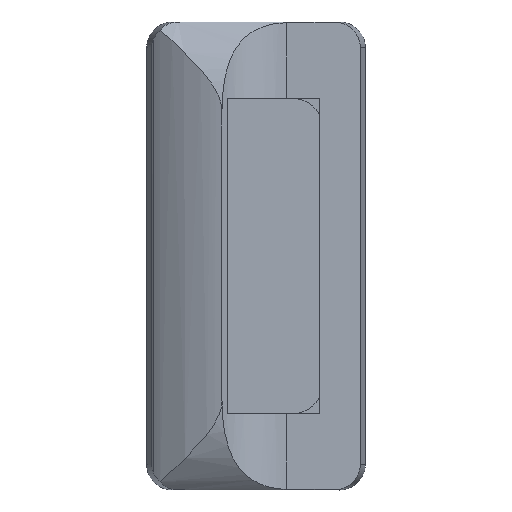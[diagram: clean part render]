
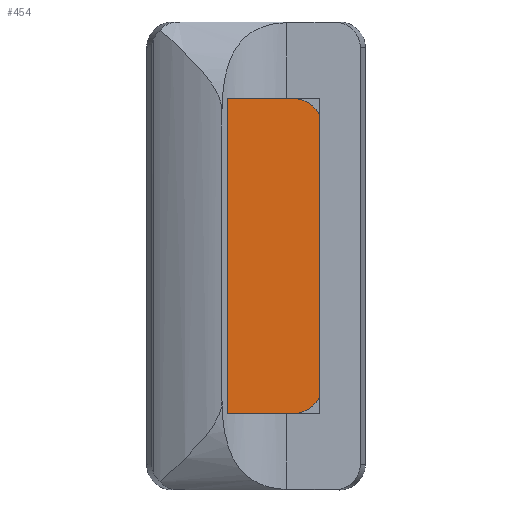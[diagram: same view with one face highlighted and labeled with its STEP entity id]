
A CAD part, top view. The second image highlights one B-rep face of the part: STEP entity #454.
In plain terms, the highlighted planar face has unit normal (0, 0, 1).
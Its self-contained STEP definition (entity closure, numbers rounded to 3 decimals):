
#112=CARTESIAN_POINT('',(20.279,68.887,-8.0));
#113=VERTEX_POINT('',#112);
#114=CARTESIAN_POINT('',(14.579,63.045,-8.0));
#115=VERTEX_POINT('',#114);
#116=CARTESIAN_POINT('',(20.577,62.894,-8.0));
#117=DIRECTION('',(0.0,0.0,1.));
#118=DIRECTION('',(-0.05,0.999,0.0));
#119=AXIS2_PLACEMENT_3D('',#116,#117,#118);
#120=CIRCLE('',#119,6.);
#121=EDGE_CURVE('',#113,#115,#120,.T.);
#154=CARTESIAN_POINT('',(14.264,37.907,-8.0));
#155=VERTEX_POINT('',#154);
#156=CARTESIAN_POINT('',(1017.064,37.907,-8.0));
#157=DIRECTION('',(0.0,0.0,1.));
#158=DIRECTION('',(-1.,0.025,0.0));
#159=AXIS2_PLACEMENT_3D('',#156,#157,#158);
#160=CIRCLE('',#159,1002.8);
#161=EDGE_CURVE('',#115,#155,#160,.T.);
#187=CARTESIAN_POINT('',(14.579,12.769,-8.0));
#188=VERTEX_POINT('',#187);
#189=CARTESIAN_POINT('',(1017.064,37.907,-8.0));
#190=DIRECTION('',(0.0,0.0,1.0));
#191=DIRECTION('',(-1.0,0.,0.0));
#192=AXIS2_PLACEMENT_3D('',#189,#190,#191);
#193=CIRCLE('',#192,1002.8);
#194=EDGE_CURVE('',#155,#188,#193,.T.);
#220=CARTESIAN_POINT('',(20.279,6.927,-8.0));
#221=VERTEX_POINT('',#220);
#222=CARTESIAN_POINT('',(20.577,12.919,-8.0));
#223=DIRECTION('',(0.0,0.0,1.));
#224=DIRECTION('',(-1.,-0.025,0.0));
#225=AXIS2_PLACEMENT_3D('',#222,#223,#224);
#226=CIRCLE('',#225,6.);
#227=EDGE_CURVE('',#188,#221,#226,.T.);
#253=CARTESIAN_POINT('',(35.241,6.927,-8.0));
#254=VERTEX_POINT('',#253);
#255=CARTESIAN_POINT('',(27.76,157.141,-8.0));
#256=DIRECTION('',(0.0,0.0,1.0));
#257=DIRECTION('',(0.,-1.0,0.0));
#258=AXIS2_PLACEMENT_3D('',#255,#256,#257);
#259=CIRCLE('',#258,150.4);
#260=EDGE_CURVE('',#221,#254,#259,.T.);
#286=CARTESIAN_POINT('',(40.941,12.769,-8.0));
#287=VERTEX_POINT('',#286);
#288=CARTESIAN_POINT('',(34.942,12.919,-8.0));
#289=DIRECTION('',(0.0,0.0,1.0));
#290=DIRECTION('',(0.05,-0.999,0.0));
#291=AXIS2_PLACEMENT_3D('',#288,#289,#290);
#292=CIRCLE('',#291,6.);
#293=EDGE_CURVE('',#254,#287,#292,.T.);
#319=CARTESIAN_POINT('',(41.256,37.907,-8.0));
#320=VERTEX_POINT('',#319);
#321=CARTESIAN_POINT('',(-961.544,37.907,-8.0));
#322=DIRECTION('',(0.0,0.0,1.));
#323=DIRECTION('',(1.,-0.025,0.0));
#324=AXIS2_PLACEMENT_3D('',#321,#322,#323);
#325=CIRCLE('',#324,1002.8);
#326=EDGE_CURVE('',#287,#320,#325,.T.);
#352=CARTESIAN_POINT('',(40.941,63.045,-8.0));
#353=VERTEX_POINT('',#352);
#354=CARTESIAN_POINT('',(-961.544,37.907,-8.0));
#355=DIRECTION('',(0.0,0.0,1.0));
#356=DIRECTION('',(1.0,0.,0.0));
#357=AXIS2_PLACEMENT_3D('',#354,#355,#356);
#358=CIRCLE('',#357,1002.8);
#359=EDGE_CURVE('',#320,#353,#358,.T.);
#385=CARTESIAN_POINT('',(35.241,68.887,-8.0));
#386=VERTEX_POINT('',#385);
#387=CARTESIAN_POINT('',(34.942,62.894,-8.0));
#388=DIRECTION('',(0.0,0.0,1.0));
#389=DIRECTION('',(1.,0.025,0.0));
#390=AXIS2_PLACEMENT_3D('',#387,#388,#389);
#391=CIRCLE('',#390,6.);
#392=EDGE_CURVE('',#353,#386,#391,.T.);
#418=CARTESIAN_POINT('',(27.76,-81.327,-8.0));
#419=DIRECTION('',(0.0,0.0,1.0));
#420=DIRECTION('',(0.,1.0,0.0));
#421=AXIS2_PLACEMENT_3D('',#418,#419,#420);
#422=CIRCLE('',#421,150.4);
#423=EDGE_CURVE('',#386,#113,#422,.T.);
#437=CARTESIAN_POINT('',(27.76,37.907,-8.0));
#438=DIRECTION('',(0.0,0.0,1.0));
#439=DIRECTION('',(1.0,0.0,0.0));
#440=AXIS2_PLACEMENT_3D('',#437,#438,#439);
#441=PLANE('',#440);
#442=ORIENTED_EDGE('',*,*,#121,.T.);
#443=ORIENTED_EDGE('',*,*,#161,.T.);
#444=ORIENTED_EDGE('',*,*,#194,.T.);
#445=ORIENTED_EDGE('',*,*,#227,.T.);
#446=ORIENTED_EDGE('',*,*,#260,.T.);
#447=ORIENTED_EDGE('',*,*,#293,.T.);
#448=ORIENTED_EDGE('',*,*,#326,.T.);
#449=ORIENTED_EDGE('',*,*,#359,.T.);
#450=ORIENTED_EDGE('',*,*,#392,.T.);
#451=ORIENTED_EDGE('',*,*,#423,.T.);
#452=EDGE_LOOP('',(#442,#443,#444,#445,#446,#447,#448,#449,#450,#451));
#453=FACE_OUTER_BOUND('',#452,.T.);
#454=ADVANCED_FACE('',(#453),#441,.T.);
